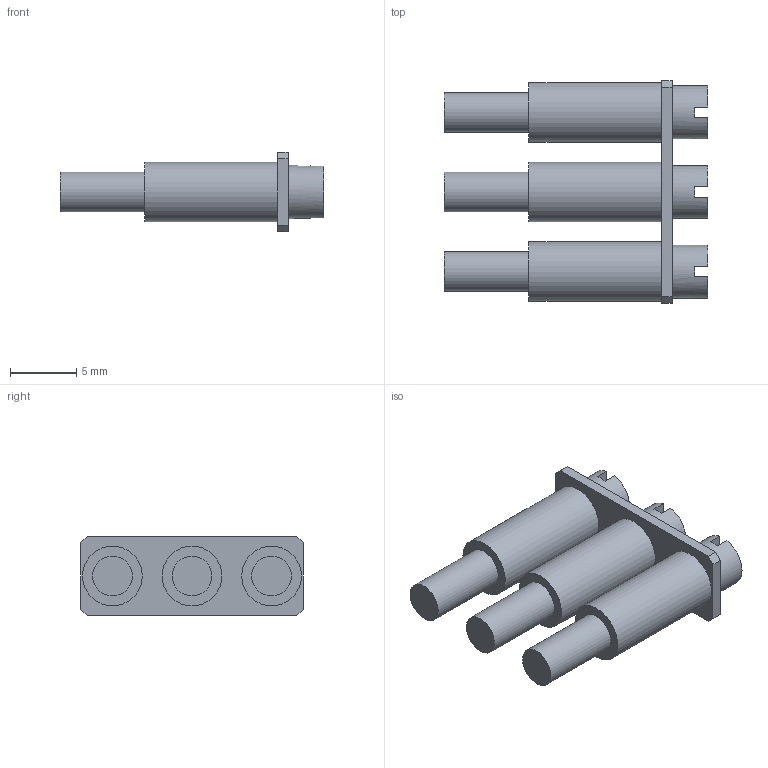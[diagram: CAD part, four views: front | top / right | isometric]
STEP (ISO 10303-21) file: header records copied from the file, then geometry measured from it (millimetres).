
FILE_DESCRIPTION(('Open CASCADE Model'),'2;1');
FILE_NAME('Open CASCADE Shape Model','2024-01-09T11:06:24',('Author'),( 'Open CASCADE'),'Open CASCADE STEP processor 6.5','Open CASCADE 6.5' ,'Unknown');
FILE_SCHEMA(('AUTOMOTIVE_DESIGN { 1 0 10303 214 1 1 1 1 }'));
Length unit declared in the file: millimetre
Products named in the file (41): CADSOFTTOOLS 2; CADSOFTTOOLS 2.1; CADSOFTTOOLS 2.2; CADSOFTTOOLS 2.3; CADSOFTTOOLS 2.4; CADSOFTTOOLS 2.5; CADSOFTTOOLS 2.6; CADSOFTTOOLS 2.7; CADSOFTTOOLS 2.8; CADSOFTTOOLS 2.9; CADSOFTTOOLS 2.10; CADSOFTTOOLS 2.11; CADSOFTTOOLS 2.12; CADSOFTTOOLS 2.13; CADSOFTTOOLS 2.14; CADSOFTTOOLS 2.15; CADSOFTTOOLS 2.16; CADSOFTTOOLS 2.17; CADSOFTTOOLS 2.18; CADSOFTTOOLS 2.19; CADSOFTTOOLS 2.20; CADSOFTTOOLS 2.21; CADSOFTTOOLS 2.22; CADSOFTTOOLS 2.23; CADSOFTTOOLS 2.24; CADSOFTTOOLS 2.25; CADSOFTTOOLS 2.26; CADSOFTTOOLS 2.27; CADSOFTTOOLS 2.28; CADSOFTTOOLS 2.29; CADSOFTTOOLS 2.30; CADSOFTTOOLS 2.31; CADSOFTTOOLS 2.32; CADSOFTTOOLS 2.33; CADSOFTTOOLS 2.34; CADSOFTTOOLS 2.35; CADSOFTTOOLS 2.36; CADSOFTTOOLS 2.37; CADSOFTTOOLS 2.38; CADSOFTTOOLS 2.39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
Assembly tree (40 placements, depth 2):
  CADSOFTTOOLS 2
    CADSOFTTOOLS 2.1
    CADSOFTTOOLS 2.2
    CADSOFTTOOLS 2.3
    CADSOFTTOOLS 2.4
    CADSOFTTOOLS 2.5
    CADSOFTTOOLS 2.6
    CADSOFTTOOLS 2.7
    CADSOFTTOOLS 2.8
    CADSOFTTOOLS 2.9
    CADSOFTTOOLS 2.10
    CADSOFTTOOLS 2.11
    CADSOFTTOOLS 2.12
    CADSOFTTOOLS 2.13
    CADSOFTTOOLS 2.14
    CADSOFTTOOLS 2.15
    CADSOFTTOOLS 2.16
    CADSOFTTOOLS 2.17
    CADSOFTTOOLS 2.18
    CADSOFTTOOLS 2.19
    CADSOFTTOOLS 2.20
    CADSOFTTOOLS 2.21
    CADSOFTTOOLS 2.22
    CADSOFTTOOLS 2.23
    CADSOFTTOOLS 2.24
    CADSOFTTOOLS 2.25
    CADSOFTTOOLS 2.26
    CADSOFTTOOLS 2.27
    CADSOFTTOOLS 2.28
    CADSOFTTOOLS 2.29
    CADSOFTTOOLS 2.30
    CADSOFTTOOLS 2.31
    CADSOFTTOOLS 2.32
    CADSOFTTOOLS 2.33
    CADSOFTTOOLS 2.34
    CADSOFTTOOLS 2.35
    CADSOFTTOOLS 2.36
    CADSOFTTOOLS 2.37
    CADSOFTTOOLS 2.38
    CADSOFTTOOLS 2.39
    CADSOFTTOOLS 2.40
Bounding box: 19.9 x 16.8 x 6 mm (x, y, z)
Surface area: 961.7 mm2 (no closed solid volume)
Topology: 0 solids, 40 shells, 40 faces, 171 edges, 162 vertices
Faces by surface type: plane 31, cylinder 9
Full cylindrical faces by diameter (mm): 3 x3, 4 x3, 4.5 x3
Entity records: 3803 total; most frequent: CARTESIAN_POINT 702, DIRECTION 516, LINE 198, VECTOR 198, ORIENTED_EDGE 180, PCURVE 180, DEFINITIONAL_REPRESENTATION 180, EDGE_CURVE 171
